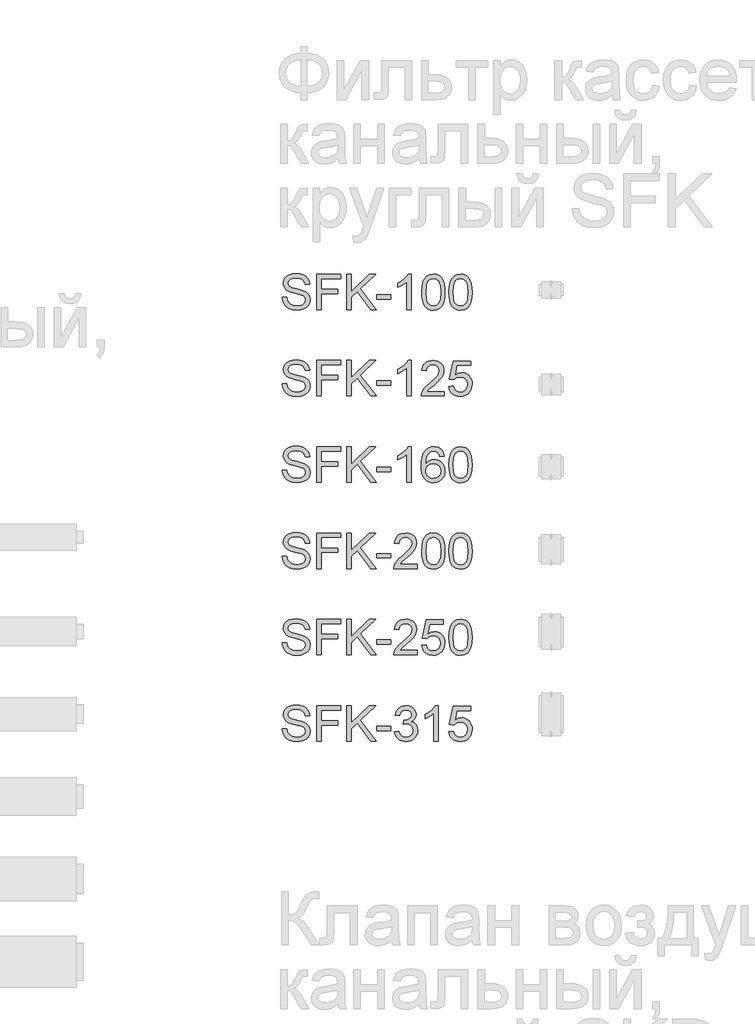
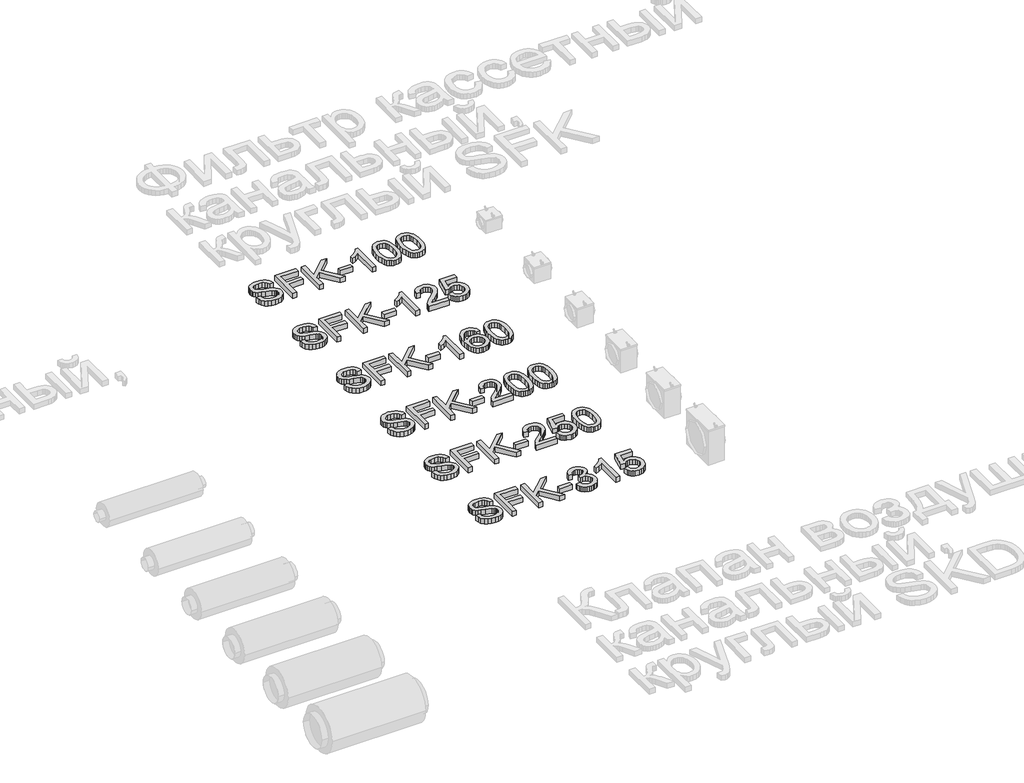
# One storey, part 13 of 31: 1 proxy.
"""IFC4 building model written with IfcOpenShell, lengths in millimetres."""

from ifc_helpers import new_model, si_unit, origin, origin_with_axes, place, context, project, spatial, polyline, outline, extrude, element, save

model = new_model("IFC4")

# Units and contexts
model_context = context("Model", 3, world=origin())
ifc_project = project(units=[si_unit("LENGTHUNIT", "METRE", prefix="MILLI")], contexts=[model_context])

# Site, building, storey
site = spatial("IfcSite", under=ifc_project)
building = spatial("IfcBuilding", under=site)
storey = spatial("IfcBuildingStorey", under=building, Name="Этаж 01", Elevation=0.0)

# Proxy
placement = place(None, origin())
element("IfcBuildingElementProxy", 1, Name="300 мм Arial", ObjectType="300 мм Arial", at=placement, inside=storey, context=model_context, shape_type="SweptSolid", body=[
    extrude(outline(polyline([(10425.0600131, -9961.2636612), (10462.7311294, -9961.2636612), (10467.0537428, -9982.1685556), (10474.8712352, -9998.9715657), (10487.0665234, -10012.307288), (10504.522524, -10022.810319), (10525.8596798, -10029.625333), (10549.698433, -10031.8970043), (10570.6861009, -10030.177156), (10589.0618065, -10025.017611), (10603.9518303, -10016.8506307), (10614.4824524, -10006.1084764), (10620.7456434, -9993.7752325), (10622.8333737, -9980.8349833), (10621.2698752, -9968.225828), (10616.5793798, -9957.3273239), (10607.0512361, -9948.0291064), (10590.9747929, -9940.2208111), (10536.1235874, -9925.8366251), (10500.1171371, -9916.3176784), (10477.0785272, -9907.2585843), (10458.3257425, -9894.5850496), (10445.0360054, -9879.2259763), (10437.1173455, -9861.5124582), (10434.4777922, -9841.7755892), (10437.7427449, -9819.7118665), (10447.537603, -9799.1380659), (10463.6048491, -9781.7004594), (10485.6869659, -9769.0453187), (10512.1928636, -9761.347388), (10541.5314528, -9758.7814111), (10573.3164571, -9761.4669496), (10601.128336, -9769.5235653), (10623.9738079, -9782.7857112), (10640.8595915, -9801.0878405), (10651.5465634, -9823.2895189), (10655.7956005, -9848.2503123), (10618.1244841, -9848.2503123), (10611.2083026, -9825.7727224), (10596.7873284, -9809.5491264), (10574.2545562, -9799.7266771), (10543.0029807, -9796.4525274), (10511.0156413, -9799.6898889), (10489.0714802, -9809.4019736), (10476.3795514, -9823.6941891), (10472.1489085, -9840.6719432), (10475.1471467, -9855.1480997), (10484.1418615, -9866.7915648), (10505.4054408, -9877.2026253), (10545.6517311, -9887.834415), (10587.1856084, -9897.9327757), (10612.3119486, -9906.7435495), (10633.7870601, -9920.4103656), (10648.7690543, -9937.2777551), (10657.5706311, -9957.161777), (10660.50449, -9979.8784902), (10657.1291727, -10003.1010411), (10647.0032208, -10024.9440346), (10630.5405015, -10043.7428045), (10608.1548821, -10057.8326849), (10581.2351171, -10066.6342617), (10551.169961, -10069.5681206), (10514.2621999, -10066.4043354), (10483.8843441, -10056.9129799), (10459.6869059, -10041.057266), (10441.3203973, -10018.8004052), (10429.5297793, -9991.6875022), (10425.0600131, -9961.2636612)])), origin_with_axes(), (0.0, 0.0, 1.0), 50.0),
    extrude(outline(polyline([(10717.0111645, -10064.859231), (10717.0111645, -9763.4903006), (10919.4934146, -9763.4903006), (10919.4934146, -9801.1614169), (10754.6822808, -9801.1614169), (10754.6822808, -9890.6303181), (10895.9489669, -9890.6303181), (10895.9489669, -9928.3014344), (10754.6822808, -9928.3014344), (10754.6822808, -10064.859231), (10717.0111645, -10064.859231)])), origin_with_axes(), (0.0, 0.0, 1.0), 50.0),
    extrude(outline(polyline([(10971.2911995, -10064.859231), (10971.2911995, -9763.4903006), (11008.9623158, -9763.4903006), (11008.9623158, -9911.0109807), (11163.4727538, -9763.4903006), (11216.1534555, -9763.4903006), (11086.438264, -9887.3929566), (11220.862345, -10064.859231), (11174.8035193, -10064.859231), (11059.7300312, -9912.8503906), (11008.9623158, -9961.2636612), (11008.9623158, -10064.859231), (10971.2911995, -10064.859231)])), origin_with_axes(), (0.0, 0.0, 1.0), 50.0),
    extrude(outline(polyline([(11225.5712346, -9975.3903298), (11225.5712346, -9937.7192135), (11343.293473, -9937.7192135), (11343.293473, -9975.3903298), (11225.5712346, -9975.3903298)])), origin_with_axes(), (0.0, 0.0, 1.0), 50.0),
    extrude(outline(polyline([(11517.522386, -10064.859231), (11479.8512697, -10064.859231), (11479.8512697, -9830.0033653), (11444.1667161, -9855.4240112), (11404.509037, -9874.4435103), (11404.509037, -9838.8325332), (11434.0959465, -9822.7376959), (11459.7281245, -9803.5894381), (11479.9340431, -9783.2271696), (11493.2421743, -9763.4903006), (11517.522386, -9763.4903006), (11517.522386, -10064.859231)])), origin_with_axes(), (0.0, 0.0, 1.0), 50.0),
    extrude(outline(polyline([(11606.9912872, -9916.602787), (11609.7595992, -9868.3642604), (11618.0645352, -9829.8930007), (11631.8233219, -9800.6003969), (11650.9531856, -9779.8978376), (11675.5920822, -9767.5921848), (11705.8779675, -9763.4903006), (11729.0913214, -9765.9183218), (11749.8766541, -9773.2023853), (11767.2590784, -9785.0573826), (11780.2637069, -9801.1982051), (11790.0861562, -9821.4868971), (11797.9220427, -9845.7855029), (11803.0539965, -9876.6416053), (11804.7646478, -9916.602787), (11802.0239269, -9964.5654021), (11793.8017643, -10002.9446913), (11780.1257512, -10032.2648863), (11761.0234786, -10053.050219), (11736.3293996, -10065.4386452), (11705.8779675, -10069.5681206), (11685.129423, -10067.7746959), (11666.7353232, -10062.3944217), (11650.6956682, -10053.427298), (11637.010458, -10040.873325), (11623.8770708, -10018.1796044), (11614.4960799, -9989.9032745), (11608.8674854, -9956.0443354), (11606.9912872, -9916.602787)]), holes=[polyline([(11644.6624035, -9916.5292106), (11649.0769874, -9975.785803), (11654.5952174, -9996.0538016), (11662.3207393, -10010.081602), (11682.0392142, -10026.4431537), (11705.8779675, -10031.8970043), (11729.7167208, -10026.4247596), (11749.4351957, -10010.0080256), (11757.1607176, -9995.9572326), (11762.6789475, -9975.6938325), (11767.0935315, -9916.5292106), (11762.8261003, -9858.6061904), (11757.4918114, -9838.4048704), (11750.0238069, -9824.043677), (11730.3421202, -9806.8819819), (11705.4365091, -9801.1614169), (11681.8552732, -9806.2014002), (11662.9093505, -9821.3213502), (11654.9263112, -9836.956335), (11649.2241402, -9858.0359734), (11644.6624035, -9916.5292106)])]), origin_with_axes(), (0.0, 0.0, 1.0), 50.0),
    extrude(outline(polyline([(11837.7268746, -9916.602787), (11840.4951866, -9868.3642604), (11848.8001226, -9829.8930007), (11862.5589092, -9800.6003969), (11881.688773, -9779.8978376), (11906.3276696, -9767.5921848), (11936.6135549, -9763.4903006), (11959.8269088, -9765.9183218), (11980.6122415, -9773.2023853), (11997.9946658, -9785.0573826), (12010.9992943, -9801.1982051), (12020.8217436, -9821.4868971), (12028.6576301, -9845.7855029), (12033.7895839, -9876.6416053), (12035.5002352, -9916.602787), (12032.7595143, -9964.5654021), (12024.5373517, -10002.9446913), (12010.8613385, -10032.2648863), (11991.7590659, -10053.050219), (11967.064987, -10065.4386452), (11936.6135549, -10069.5681206), (11915.8650103, -10067.7746959), (11897.4709106, -10062.3944217), (11881.4312556, -10053.427298), (11867.7460454, -10040.873325), (11854.6126581, -10018.1796044), (11845.2316673, -9989.9032745), (11839.6030727, -9956.0443354), (11837.7268746, -9916.602787)]), holes=[polyline([(11875.3979909, -9916.5292106), (11879.8125748, -9975.785803), (11885.3308047, -9996.0538016), (11893.0563266, -10010.081602), (11912.7748016, -10026.4431537), (11936.6135549, -10031.8970043), (11960.4523081, -10026.4247596), (11980.1707831, -10010.0080256), (11987.896305, -9995.9572326), (11993.4145349, -9975.6938325), (11997.8291189, -9916.5292106), (11993.5616877, -9858.6061904), (11988.2273988, -9838.4048704), (11980.7593943, -9824.043677), (11961.0777075, -9806.8819819), (11936.1720965, -9801.1614169), (11912.5908606, -9806.2014002), (11893.6449378, -9821.3213502), (11885.6618985, -9836.956335), (11879.9597276, -9858.0359734), (11875.3979909, -9916.5292106)])]), origin_with_axes(), (0.0, 0.0, 1.0), 50.0),
    extrude(outline(polyline([(10425.0600131, -10693.1125683), (10462.7311294, -10693.1125683), (10467.0537428, -10714.0174627), (10474.8712352, -10730.8204728), (10487.0665234, -10744.1561951), (10504.522524, -10754.6592261), (10525.8596798, -10761.47424), (10549.698433, -10763.7459113), (10570.6861009, -10762.026063), (10589.0618065, -10756.866518), (10603.9518303, -10748.6995377), (10614.4824524, -10737.9573835), (10620.7456434, -10725.6241396), (10622.8333737, -10712.6838904), (10621.2698752, -10700.074735), (10616.5793798, -10689.1762309), (10607.0512361, -10679.8780135), (10590.9747929, -10672.0697182), (10536.1235874, -10657.6855321), (10500.1171371, -10648.1665855), (10477.0785272, -10639.1074914), (10458.3257425, -10626.4339566), (10445.0360054, -10611.0748834), (10437.1173455, -10593.3613653), (10434.4777922, -10573.6244962), (10437.7427449, -10551.5607736), (10447.537603, -10530.986973), (10463.6048491, -10513.5493664), (10485.6869659, -10500.8942258), (10512.1928636, -10493.196295), (10541.5314528, -10490.6303181), (10573.3164571, -10493.3158567), (10601.128336, -10501.3724724), (10623.9738079, -10514.6346183), (10640.8595915, -10532.9367476), (10651.5465634, -10555.138426), (10655.7956005, -10580.0992194), (10618.1244841, -10580.0992194), (10611.2083026, -10557.6216295), (10596.7873284, -10541.3980335), (10574.2545562, -10531.5755842), (10543.0029807, -10528.3014344), (10511.0156413, -10531.538796), (10489.0714802, -10541.2508807), (10476.3795514, -10555.5430962), (10472.1489085, -10572.5208503), (10475.1471467, -10586.9970068), (10484.1418615, -10598.6404719), (10505.4054408, -10609.0515324), (10545.6517311, -10619.683322), (10587.1856084, -10629.7816828), (10612.3119486, -10638.5924566), (10633.7870601, -10652.2592727), (10648.7690543, -10669.1266622), (10657.5706311, -10689.010684), (10660.50449, -10711.7273972), (10657.1291727, -10734.9499482), (10647.0032208, -10756.7929416), (10630.5405015, -10775.5917116), (10608.1548821, -10789.681592), (10581.2351171, -10798.4831687), (10551.169961, -10801.4170277), (10514.2621999, -10798.2532425), (10483.8843441, -10788.761887), (10459.6869059, -10772.906173), (10441.3203973, -10750.6493123), (10429.5297793, -10723.5364093), (10425.0600131, -10693.1125683)])), origin_with_axes(), (0.0, 0.0, 1.0), 50.0),
    extrude(outline(polyline([(10717.0111645, -10796.7081381), (10717.0111645, -10495.3392077), (10919.4934146, -10495.3392077), (10919.4934146, -10533.010324), (10754.6822808, -10533.010324), (10754.6822808, -10622.4792252), (10895.9489669, -10622.4792252), (10895.9489669, -10660.1503415), (10754.6822808, -10660.1503415), (10754.6822808, -10796.7081381), (10717.0111645, -10796.7081381)])), origin_with_axes(), (0.0, 0.0, 1.0), 50.0),
    extrude(outline(polyline([(10971.2911995, -10796.7081381), (10971.2911995, -10495.3392077), (11008.9623158, -10495.3392077), (11008.9623158, -10642.8598877), (11163.4727538, -10495.3392077), (11216.1534555, -10495.3392077), (11086.438264, -10619.2418636), (11220.862345, -10796.7081381), (11174.8035193, -10796.7081381), (11059.7300312, -10644.6992977), (11008.9623158, -10693.1125683), (11008.9623158, -10796.7081381), (10971.2911995, -10796.7081381)])), origin_with_axes(), (0.0, 0.0, 1.0), 50.0),
    extrude(outline(polyline([(11225.5712346, -10707.2392369), (11225.5712346, -10669.5681206), (11343.293473, -10669.5681206), (11343.293473, -10707.2392369), (11225.5712346, -10707.2392369)])), origin_with_axes(), (0.0, 0.0, 1.0), 50.0),
    extrude(outline(polyline([(11517.522386, -10796.7081381), (11479.8512697, -10796.7081381), (11479.8512697, -10561.8522724), (11444.1667161, -10587.2729183), (11404.509037, -10606.2924174), (11404.509037, -10570.6814403), (11434.0959465, -10554.586603), (11459.7281245, -10535.4383451), (11479.9340431, -10515.0760767), (11493.2421743, -10495.3392077), (11517.522386, -10495.3392077), (11517.522386, -10796.7081381)])), origin_with_axes(), (0.0, 0.0, 1.0), 50.0),
    extrude(outline(polyline([(11800.0557583, -10759.0370218), (11800.0557583, -10796.7081381), (11602.2823976, -10796.7081381), (11606.3290996, -10770.7356693), (11615.61812, -10750.4377802), (11629.2113597, -10730.7468964), (11648.8746523, -10710.1363076), (11676.3738315, -10687.0793036), (11717.0247919, -10650.9716857), (11741.4153682, -10624.3186352), (11753.6106564, -10602.6871739), (11757.6757524, -10581.6443237), (11753.8405826, -10562.7811744), (11742.3350732, -10547.1002044), (11724.6491463, -10536.5327941), (11702.2727239, -10533.010324), (11678.7742615, -10536.4500206), (11660.5181175, -10546.7691106), (11648.7366966, -10563.1582535), (11644.6624035, -10584.8081089), (11606.9912872, -10580.0992194), (11616.1239577, -10543.6605077), (11624.6703163, -10529.1245704), (11635.8700238, -10517.0442454), (11649.4655628, -10507.5482914), (11665.1994159, -10500.7654671), (11703.0820643, -10495.3392077), (11723.2718881, -10496.8475238), (11741.2406243, -10501.3724724), (11756.9882729, -10508.9140533), (11770.514834, -10519.4722666), (11781.3788492, -10532.2653629), (11789.13886, -10546.5115932), (11793.7948665, -10562.2109573), (11795.3468687, -10579.3634554), (11793.6730056, -10597.3804761), (11788.6514164, -10615.0847971), (11779.7394751, -10633.0926208), (11766.3945557, -10652.0201494), (11745.1217793, -10674.617301), (11712.426267, -10703.6339933), (11669.089768, -10739.8703699), (11652.0936198, -10759.0370218), (11800.0557583, -10759.0370218)])), origin_with_axes(), (0.0, 0.0, 1.0), 50.0),
    extrude(outline(polyline([(11837.7268746, -10716.657016), (11875.3979909, -10711.9481264), (11882.3141724, -10734.5636721), (11894.3807018, -10750.7596769), (11911.5423969, -10760.4993527), (11933.7440753, -10763.7459113), (11960.7466137, -10759.2301599), (11980.9801235, -10745.6829054), (11993.61687, -10724.6676464), (11997.8291189, -10697.7478814), (11993.8835845, -10672.4008119), (11982.0469813, -10653.0134308), (11962.2273388, -10640.7077781), (11934.3326865, -10636.6058938), (11916.0581484, -10638.2429687), (11901.2600951, -10643.1541933), (11880.1068804, -10660.1503415), (11842.4357641, -10655.441452), (11875.3979909, -10500.0480972), (12021.3735666, -10500.0480972), (12021.3735666, -10537.7192135), (11905.8586201, -10537.7192135), (11889.7453887, -10620.7133916), (11916.6559566, -10604.379431), (11944.8541116, -10598.9347775), (11963.1999268, -10600.6224362), (11980.0512214, -10605.6854121), (11995.4079955, -10614.1237054), (12009.2702489, -10625.937316), (12020.7458679, -10640.4042754), (12028.9427386, -10656.8026154), (12033.860861, -10675.1323358), (12035.5002352, -10695.3934366), (12029.5957291, -10733.064553), (12022.2150966, -10749.858366), (12011.8822111, -10765.2910157), (11996.2288322, -10781.0961459), (11977.9634911, -10792.3855247), (11957.0861879, -10799.1591519), (11933.5969225, -10801.4170277), (11896.5971908, -10795.6136892), (11880.9185201, -10788.3595161), (11867.120646, -10778.2036738), (11855.6404285, -10765.6519999), (11846.9147274, -10751.2103324), (11837.7268746, -10716.657016)])), origin_with_axes(), (0.0, 0.0, 1.0), 50.0),
    extrude(outline(polyline([(10425.0600131, -11424.9614753), (10462.7311294, -11424.9614753), (10467.0537428, -11445.8663697), (10474.8712352, -11462.6693799), (10487.0665234, -11476.0051022), (10504.522524, -11486.5081331), (10525.8596798, -11493.3231471), (10549.698433, -11495.5948184), (10570.6861009, -11493.8749701), (10589.0618065, -11488.7154251), (10603.9518303, -11480.5484448), (10614.4824524, -11469.8062906), (10620.7456434, -11457.4730467), (10622.8333737, -11444.5327975), (10621.2698752, -11431.9236421), (10616.5793798, -11421.025138), (10607.0512361, -11411.7269206), (10590.9747929, -11403.9186252), (10536.1235874, -11389.5344392), (10500.1171371, -11380.0154926), (10477.0785272, -11370.9563985), (10458.3257425, -11358.2828637), (10445.0360054, -11342.9237904), (10437.1173455, -11325.2102724), (10434.4777922, -11305.4734033), (10437.7427449, -11283.4096807), (10447.537603, -11262.8358801), (10463.6048491, -11245.3982735), (10485.6869659, -11232.7431329), (10512.1928636, -11225.0452021), (10541.5314528, -11222.4792252), (10573.3164571, -11225.1647638), (10601.128336, -11233.2213795), (10623.9738079, -11246.4835254), (10640.8595915, -11264.7856546), (10651.5465634, -11286.9873331), (10655.7956005, -11311.9481264), (10618.1244841, -11311.9481264), (10611.2083026, -11289.4705365), (10596.7873284, -11273.2469405), (10574.2545562, -11263.4244913), (10543.0029807, -11260.1503415), (10511.0156413, -11263.3877031), (10489.0714802, -11273.0997877), (10476.3795514, -11287.3920033), (10472.1489085, -11304.3697573), (10475.1471467, -11318.8459138), (10484.1418615, -11330.489379), (10505.4054408, -11340.9004394), (10545.6517311, -11351.5322291), (10587.1856084, -11361.6305899), (10612.3119486, -11370.4413637), (10633.7870601, -11384.1081798), (10648.7690543, -11400.9755693), (10657.5706311, -11420.8595911), (10660.50449, -11443.5763043), (10657.1291727, -11466.7988552), (10647.0032208, -11488.6418487), (10630.5405015, -11507.4406187), (10608.1548821, -11521.5304991), (10581.2351171, -11530.3320758), (10551.169961, -11533.2659347), (10514.2621999, -11530.1021496), (10483.8843441, -11520.6107941), (10459.6869059, -11504.7550801), (10441.3203973, -11482.4982194), (10429.5297793, -11455.3853163), (10425.0600131, -11424.9614753)])), origin_with_axes(), (0.0, 0.0, 1.0), 50.0),
    extrude(outline(polyline([(10717.0111645, -11528.5570452), (10717.0111645, -11227.1881147), (10919.4934146, -11227.1881147), (10919.4934146, -11264.859231), (10754.6822808, -11264.859231), (10754.6822808, -11354.3281323), (10895.9489669, -11354.3281323), (10895.9489669, -11391.9992486), (10754.6822808, -11391.9992486), (10754.6822808, -11528.5570452), (10717.0111645, -11528.5570452)])), origin_with_axes(), (0.0, 0.0, 1.0), 50.0),
    extrude(outline(polyline([(10971.2911995, -11528.5570452), (10971.2911995, -11227.1881147), (11008.9623158, -11227.1881147), (11008.9623158, -11374.7087948), (11163.4727538, -11227.1881147), (11216.1534555, -11227.1881147), (11086.438264, -11351.0907707), (11220.862345, -11528.5570452), (11174.8035193, -11528.5570452), (11059.7300312, -11376.5482048), (11008.9623158, -11424.9614753), (11008.9623158, -11528.5570452), (10971.2911995, -11528.5570452)])), origin_with_axes(), (0.0, 0.0, 1.0), 50.0),
    extrude(outline(polyline([(11225.5712346, -11439.088144), (11225.5712346, -11401.4170277), (11343.293473, -11401.4170277), (11343.293473, -11439.088144), (11225.5712346, -11439.088144)])), origin_with_axes(), (0.0, 0.0, 1.0), 50.0),
    extrude(outline(polyline([(11517.522386, -11528.5570452), (11479.8512697, -11528.5570452), (11479.8512697, -11293.7011795), (11444.1667161, -11319.1218253), (11404.509037, -11338.1413245), (11404.509037, -11302.5303474), (11434.0959465, -11286.4355101), (11459.7281245, -11267.2872522), (11479.9340431, -11246.9249838), (11493.2421743, -11227.1881147), (11517.522386, -11227.1881147), (11517.522386, -11528.5570452)])), origin_with_axes(), (0.0, 0.0, 1.0), 50.0),
    extrude(outline(polyline([(11800.0557583, -11307.2392369), (11762.3846419, -11311.9481264), (11756.314589, -11293.2781152), (11748.1108205, -11280.531004), (11731.0227019, -11268.7771743), (11710.3661278, -11264.859231), (11692.8549449, -11267.1400994), (11676.3738315, -11273.9827045), (11662.2195717, -11288.3944817), (11650.65888, -11308.2325183), (11642.8505847, -11336.2927175), (11639.953514, -11375.3709824), (11655.0642669, -11357.7402378), (11673.1732581, -11345.3150234), (11693.2688121, -11337.9481864), (11714.3392534, -11335.4925741), (11732.4390475, -11337.1710357), (11749.1408901, -11342.2064205), (11764.4447811, -11350.5987285), (11778.3507205, -11362.3479598), (11789.9068137, -11376.7551384), (11798.161166, -11393.1212887), (11803.1137773, -11411.4464105), (11804.7646478, -11431.7305041), (11801.6560449, -11458.7054514), (11792.3302364, -11483.71223), (11777.5597742, -11504.920627), (11758.1172108, -11520.5004295), (11734.8854628, -11530.0745584), (11708.747447, -11533.2659347), (11686.2905505, -11531.1506133), (11666.0087563, -11524.8046488), (11647.9020643, -11514.2280415), (11631.9704747, -11499.4207912), (11618.981941, -11479.7574985), (11609.7044169, -11454.6127642), (11604.1379025, -11423.9865881), (11602.2823976, -11387.8789702), (11604.3425368, -11347.3981552), (11610.5229543, -11312.8494373), (11620.8236502, -11284.2328166), (11635.2446244, -11261.5482931), (11650.8750107, -11246.5157151), (11668.9977975, -11235.7781593), (11689.6129848, -11229.3356259), (11712.7205726, -11227.1881147), (11745.7747699, -11232.5040096), (11772.2438794, -11248.4516941), (11790.785132, -11273.7803694), (11800.0557583, -11307.2392369)]), holes=[polyline([(11639.953514, -11431.1418929), (11642.1332148, -11447.8345384), (11648.6723172, -11463.7730258), (11658.8258603, -11477.4766302), (11671.8488829, -11487.4646263), (11687.5666412, -11493.5622704), (11705.8043911, -11495.5948184), (11730.6640169, -11491.3825696), (11750.2077479, -11478.745823), (11762.8720856, -11458.8801953), (11767.0935315, -11432.9813028), (11762.9272679, -11408.121677), (11750.4284771, -11389.1665572), (11730.5536523, -11377.1644071), (11704.2592867, -11373.1636904), (11679.4364491, -11377.1644071), (11658.6787075, -11389.1665572), (11644.6348123, -11407.6618245), (11639.953514, -11431.1418929)])]), origin_with_axes(), (0.0, 0.0, 1.0), 50.0),
    extrude(outline(polyline([(11837.7268746, -11380.3006011), (11840.4951866, -11332.0620745), (11848.8001226, -11293.5908149), (11862.5589092, -11264.298211), (11881.688773, -11243.5956517), (11906.3276696, -11231.289999), (11936.6135549, -11227.1881147), (11959.8269088, -11229.6161359), (11980.6122415, -11236.9001994), (11997.9946658, -11248.7551967), (12010.9992943, -11264.8960192), (12020.8217436, -11285.1847113), (12028.6576301, -11309.4833171), (12033.7895839, -11340.3394194), (12035.5002352, -11380.3006011), (12032.7595143, -11428.2632163), (12024.5373517, -11466.6425054), (12010.8613385, -11495.9627004), (11991.7590659, -11516.7480331), (11967.064987, -11529.1364593), (11936.6135549, -11533.2659347), (11915.8650103, -11531.47251), (11897.4709106, -11526.0922358), (11881.4312556, -11517.1251122), (11867.7460454, -11504.5711391), (11854.6126581, -11481.8774185), (11845.2316673, -11453.6010887), (11839.6030727, -11419.7421495), (11837.7268746, -11380.3006011)]), holes=[polyline([(11875.3979909, -11380.2270247), (11879.8125748, -11439.4836171), (11885.3308047, -11459.7516158), (11893.0563266, -11473.7794161), (11912.7748016, -11490.1409678), (11936.6135549, -11495.5948184), (11960.4523081, -11490.1225737), (11980.1707831, -11473.7058397), (11987.896305, -11459.6550468), (11993.4145349, -11439.3916466), (11997.8291189, -11380.2270247), (11993.5616877, -11322.3040046), (11988.2273988, -11302.1026845), (11980.7593943, -11287.7414911), (11961.0777075, -11270.5797961), (11936.1720965, -11264.859231), (11912.5908606, -11269.8992144), (11893.6449378, -11285.0191644), (11885.6618985, -11300.6541492), (11879.9597276, -11321.7337875), (11875.3979909, -11380.2270247)])]), origin_with_axes(), (0.0, 0.0, 1.0), 50.0),
    extrude(outline(polyline([(10425.0600131, -12156.8103824), (10462.7311294, -12156.8103824), (10467.0537428, -12177.7152768), (10474.8712352, -12194.5182869), (10487.0665234, -12207.8540092), (10504.522524, -12218.3570402), (10525.8596798, -12225.1720542), (10549.698433, -12227.4437255), (10570.6861009, -12225.7238772), (10589.0618065, -12220.5643322), (10603.9518303, -12212.3973519), (10614.4824524, -12201.6551976), (10620.7456434, -12189.3219537), (10622.8333737, -12176.3817046), (10621.2698752, -12163.7725492), (10616.5793798, -12152.8740451), (10607.0512361, -12143.5758276), (10590.9747929, -12135.7675323), (10536.1235874, -12121.3833463), (10500.1171371, -12111.8643997), (10477.0785272, -12102.8053055), (10458.3257425, -12090.1317708), (10445.0360054, -12074.7726975), (10437.1173455, -12057.0591794), (10434.4777922, -12037.3223104), (10437.7427449, -12015.2585877), (10447.537603, -11994.6847871), (10463.6048491, -11977.2471806), (10485.6869659, -11964.5920399), (10512.1928636, -11956.8941092), (10541.5314528, -11954.3281323), (10573.3164571, -11957.0136708), (10601.128336, -11965.0702865), (10623.9738079, -11978.3324325), (10640.8595915, -11996.6345617), (10651.5465634, -12018.8362401), (10655.7956005, -12043.7970335), (10618.1244841, -12043.7970335), (10611.2083026, -12021.3194436), (10596.7873284, -12005.0958476), (10574.2545562, -11995.2733983), (10543.0029807, -11991.9992486), (10511.0156413, -11995.2366101), (10489.0714802, -12004.9486948), (10476.3795514, -12019.2409103), (10472.1489085, -12036.2186644), (10475.1471467, -12050.6948209), (10484.1418615, -12062.3382861), (10505.4054408, -12072.7493465), (10545.6517311, -12083.3811362), (10587.1856084, -12093.4794969), (10612.3119486, -12102.2902707), (10633.7870601, -12115.9570869), (10648.7690543, -12132.8244763), (10657.5706311, -12152.7084982), (10660.50449, -12175.4252114), (10657.1291727, -12198.6477623), (10647.0032208, -12220.4907558), (10630.5405015, -12239.2895257), (10608.1548821, -12253.3794062), (10581.2351171, -12262.1809829), (10551.169961, -12265.1148418), (10514.2621999, -12261.9510566), (10483.8843441, -12252.4597012), (10459.6869059, -12236.6039872), (10441.3203973, -12214.3471265), (10429.5297793, -12187.2342234), (10425.0600131, -12156.8103824)])), origin_with_axes(), (0.0, 0.0, 1.0), 50.0),
    extrude(outline(polyline([(10717.0111645, -12260.4059523), (10717.0111645, -11959.0370218), (10919.4934146, -11959.0370218), (10919.4934146, -11996.7081381), (10754.6822808, -11996.7081381), (10754.6822808, -12086.1770393), (10895.9489669, -12086.1770393), (10895.9489669, -12123.8481557), (10754.6822808, -12123.8481557), (10754.6822808, -12260.4059523), (10717.0111645, -12260.4059523)])), origin_with_axes(), (0.0, 0.0, 1.0), 50.0),
    extrude(outline(polyline([(10971.2911995, -12260.4059523), (10971.2911995, -11959.0370218), (11008.9623158, -11959.0370218), (11008.9623158, -12106.5577019), (11163.4727538, -11959.0370218), (11216.1534555, -11959.0370218), (11086.438264, -12082.9396778), (11220.862345, -12260.4059523), (11174.8035193, -12260.4059523), (11059.7300312, -12108.3971119), (11008.9623158, -12156.8103824), (11008.9623158, -12260.4059523), (10971.2911995, -12260.4059523)])), origin_with_axes(), (0.0, 0.0, 1.0), 50.0),
    extrude(outline(polyline([(11225.5712346, -12170.937051), (11225.5712346, -12133.2659347), (11343.293473, -12133.2659347), (11343.293473, -12170.937051), (11225.5712346, -12170.937051)])), origin_with_axes(), (0.0, 0.0, 1.0), 50.0),
    extrude(outline(polyline([(11569.3201709, -12222.734836), (11569.3201709, -12260.4059523), (11371.5468103, -12260.4059523), (11375.5935122, -12234.4334834), (11384.8825326, -12214.1355943), (11398.4757723, -12194.4447105), (11418.139065, -12173.8341217), (11445.6382441, -12150.7771177), (11486.2892046, -12114.6694999), (11510.6797808, -12088.0164493), (11522.875069, -12066.384988), (11526.940165, -12045.3421379), (11523.1049952, -12026.4789886), (11511.5994858, -12010.7980185), (11493.9135589, -12000.2306082), (11471.5371366, -11996.7081381), (11448.0386741, -12000.1478348), (11429.7825301, -12010.4669247), (11418.0011092, -12026.8560676), (11413.9268161, -12048.505923), (11376.2556998, -12043.7970335), (11385.3883703, -12007.3583219), (11393.9347289, -11992.8223845), (11405.1344364, -11980.7420595), (11418.7299754, -11971.2461055), (11434.4638285, -11964.4632812), (11472.3464769, -11959.0370218), (11492.5363007, -11960.545338), (11510.5050369, -11965.0702865), (11526.2526856, -11972.6118674), (11539.7792467, -11983.1700807), (11550.6432618, -11995.9631771), (11558.4032727, -12010.2094073), (11563.0592792, -12025.9087715), (11564.6112813, -12043.0612695), (11562.9374183, -12061.0782902), (11557.915829, -12078.7826112), (11549.0038877, -12096.7904349), (11535.6589683, -12115.7179636), (11514.3861919, -12138.3151151), (11481.6906796, -12167.3318075), (11438.3541806, -12203.568184), (11421.3580324, -12222.734836), (11569.3201709, -12222.734836)])), origin_with_axes(), (0.0, 0.0, 1.0), 50.0),
    extrude(outline(polyline([(11606.9912872, -12112.1495082), (11609.7595992, -12063.9109816), (11618.0645352, -12025.4397219), (11631.8233219, -11996.1471181), (11650.9531856, -11975.4445588), (11675.5920822, -11963.1389061), (11705.8779675, -11959.0370218), (11729.0913214, -11961.465043), (11749.8766541, -11968.7491065), (11767.2590784, -11980.6041038), (11780.2637069, -11996.7449263), (11790.0861562, -12017.0336184), (11797.9220427, -12041.3322241), (11803.0539965, -12072.1883265), (11804.7646478, -12112.1495082), (11802.0239269, -12160.1121233), (11793.8017643, -12198.4914125), (11780.1257512, -12227.8116075), (11761.0234786, -12248.5969402), (11736.3293996, -12260.9853664), (11705.8779675, -12265.1148418), (11685.129423, -12263.3214171), (11666.7353232, -12257.9411429), (11650.6956682, -12248.9740193), (11637.010458, -12236.4200462), (11623.8770708, -12213.7263256), (11614.4960799, -12185.4499957), (11608.8674854, -12151.5910566), (11606.9912872, -12112.1495082)]), holes=[polyline([(11644.6624035, -12112.0759318), (11649.0769874, -12171.3325242), (11654.5952174, -12191.6005228), (11662.3207393, -12205.6283232), (11682.0392142, -12221.9898749), (11705.8779675, -12227.4437255), (11729.7167208, -12221.9714808), (11749.4351957, -12205.5547468), (11757.1607176, -12191.5039538), (11762.6789475, -12171.2405537), (11767.0935315, -12112.0759318), (11762.8261003, -12054.1529117), (11757.4918114, -12033.9515916), (11750.0238069, -12019.5903982), (11730.3421202, -12002.4287031), (11705.4365091, -11996.7081381), (11681.8552732, -12001.7481215), (11662.9093505, -12016.8680715), (11654.9263112, -12032.5030562), (11649.2241402, -12053.5826946), (11644.6624035, -12112.0759318)])]), origin_with_axes(), (0.0, 0.0, 1.0), 50.0),
    extrude(outline(polyline([(11837.7268746, -12112.1495082), (11840.4951866, -12063.9109816), (11848.8001226, -12025.4397219), (11862.5589092, -11996.1471181), (11881.688773, -11975.4445588), (11906.3276696, -11963.1389061), (11936.6135549, -11959.0370218), (11959.8269088, -11961.465043), (11980.6122415, -11968.7491065), (11997.9946658, -11980.6041038), (12010.9992943, -11996.7449263), (12020.8217436, -12017.0336184), (12028.6576301, -12041.3322241), (12033.7895839, -12072.1883265), (12035.5002352, -12112.1495082), (12032.7595143, -12160.1121233), (12024.5373517, -12198.4914125), (12010.8613385, -12227.8116075), (11991.7590659, -12248.5969402), (11967.064987, -12260.9853664), (11936.6135549, -12265.1148418), (11915.8650103, -12263.3214171), (11897.4709106, -12257.9411429), (11881.4312556, -12248.9740193), (11867.7460454, -12236.4200462), (11854.6126581, -12213.7263256), (11845.2316673, -12185.4499957), (11839.6030727, -12151.5910566), (11837.7268746, -12112.1495082)]), holes=[polyline([(11875.3979909, -12112.0759318), (11879.8125748, -12171.3325242), (11885.3308047, -12191.6005228), (11893.0563266, -12205.6283232), (11912.7748016, -12221.9898749), (11936.6135549, -12227.4437255), (11960.4523081, -12221.9714808), (11980.1707831, -12205.5547468), (11987.896305, -12191.5039538), (11993.4145349, -12171.2405537), (11997.8291189, -12112.0759318), (11993.5616877, -12054.1529117), (11988.2273988, -12033.9515916), (11980.7593943, -12019.5903982), (11961.0777075, -12002.4287031), (11936.1720965, -11996.7081381), (11912.5908606, -12001.7481215), (11893.6449378, -12016.8680715), (11885.6618985, -12032.5030562), (11879.9597276, -12053.5826946), (11875.3979909, -12112.0759318)])]), origin_with_axes(), (0.0, 0.0, 1.0), 50.0),
    extrude(outline(polyline([(10425.0600131, -12888.6592895), (10462.7311294, -12888.6592895), (10467.0537428, -12909.5641839), (10474.8712352, -12926.367194), (10487.0665234, -12939.7029163), (10504.522524, -12950.2059473), (10525.8596798, -12957.0209612), (10549.698433, -12959.2926326), (10570.6861009, -12957.5727842), (10589.0618065, -12952.4132393), (10603.9518303, -12944.246259), (10614.4824524, -12933.5041047), (10620.7456434, -12921.1708608), (10622.8333737, -12908.2306116), (10621.2698752, -12895.6214562), (10616.5793798, -12884.7229521), (10607.0512361, -12875.4247347), (10590.9747929, -12867.6164394), (10536.1235874, -12853.2322534), (10500.1171371, -12843.7133067), (10477.0785272, -12834.6542126), (10458.3257425, -12821.9806779), (10445.0360054, -12806.6216046), (10437.1173455, -12788.9080865), (10434.4777922, -12769.1712175), (10437.7427449, -12747.1074948), (10447.537603, -12726.5336942), (10463.6048491, -12709.0960876), (10485.6869659, -12696.440947), (10512.1928636, -12688.7430163), (10541.5314528, -12686.1770393), (10573.3164571, -12688.8625779), (10601.128336, -12696.9191936), (10623.9738079, -12710.1813395), (10640.8595915, -12728.4834688), (10651.5465634, -12750.6851472), (10655.7956005, -12775.6459406), (10618.1244841, -12775.6459406), (10611.2083026, -12753.1683507), (10596.7873284, -12736.9447547), (10574.2545562, -12727.1223054), (10543.0029807, -12723.8481557), (10511.0156413, -12727.0855172), (10489.0714802, -12736.7976019), (10476.3795514, -12751.0898174), (10472.1489085, -12768.0675715), (10475.1471467, -12782.543728), (10484.1418615, -12794.1871931), (10505.4054408, -12804.5982536), (10545.6517311, -12815.2300433), (10587.1856084, -12825.328404), (10612.3119486, -12834.1391778), (10633.7870601, -12847.8059939), (10648.7690543, -12864.6733834), (10657.5706311, -12884.5574052), (10660.50449, -12907.2741184), (10657.1291727, -12930.4966694), (10647.0032208, -12952.3396629), (10630.5405015, -12971.1384328), (10608.1548821, -12985.2283132), (10581.2351171, -12994.02989), (10551.169961, -12996.9637489), (10514.2621999, -12993.7999637), (10483.8843441, -12984.3086082), (10459.6869059, -12968.4528942), (10441.3203973, -12946.1960335), (10429.5297793, -12919.0831305), (10425.0600131, -12888.6592895)])), origin_with_axes(), (0.0, 0.0, 1.0), 50.0),
    extrude(outline(polyline([(10717.0111645, -12992.2548593), (10717.0111645, -12690.8859289), (10919.4934146, -12690.8859289), (10919.4934146, -12728.5570452), (10754.6822808, -12728.5570452), (10754.6822808, -12818.0259464), (10895.9489669, -12818.0259464), (10895.9489669, -12855.6970627), (10754.6822808, -12855.6970627), (10754.6822808, -12992.2548593), (10717.0111645, -12992.2548593)])), origin_with_axes(), (0.0, 0.0, 1.0), 50.0),
    extrude(outline(polyline([(10971.2911995, -12992.2548593), (10971.2911995, -12690.8859289), (11008.9623158, -12690.8859289), (11008.9623158, -12838.4066089), (11163.4727538, -12690.8859289), (11216.1534555, -12690.8859289), (11086.438264, -12814.7885849), (11220.862345, -12992.2548593), (11174.8035193, -12992.2548593), (11059.7300312, -12840.2460189), (11008.9623158, -12888.6592895), (11008.9623158, -12992.2548593), (10971.2911995, -12992.2548593)])), origin_with_axes(), (0.0, 0.0, 1.0), 50.0),
    extrude(outline(polyline([(11225.5712346, -12902.7859581), (11225.5712346, -12865.1148418), (11343.293473, -12865.1148418), (11343.293473, -12902.7859581), (11225.5712346, -12902.7859581)])), origin_with_axes(), (0.0, 0.0, 1.0), 50.0),
    extrude(outline(polyline([(11569.3201709, -12954.583743), (11569.3201709, -12992.2548593), (11371.5468103, -12992.2548593), (11375.5935122, -12966.2823905), (11384.8825326, -12945.9845014), (11398.4757723, -12926.2936176), (11418.139065, -12905.6830288), (11445.6382441, -12882.6260248), (11486.2892046, -12846.5184069), (11510.6797808, -12819.8653564), (11522.875069, -12798.2338951), (11526.940165, -12777.191045), (11523.1049952, -12758.3278956), (11511.5994858, -12742.6469256), (11493.9135589, -12732.0795153), (11471.5371366, -12728.5570452), (11448.0386741, -12731.9967418), (11429.7825301, -12742.3158318), (11418.0011092, -12758.7049747), (11413.9268161, -12780.3548301), (11376.2556998, -12775.6459406), (11385.3883703, -12739.2072289), (11393.9347289, -12724.6712916), (11405.1344364, -12712.5909666), (11418.7299754, -12703.0950126), (11434.4638285, -12696.3121883), (11472.3464769, -12690.8859289), (11492.5363007, -12692.3942451), (11510.5050369, -12696.9191936), (11526.2526856, -12704.4607745), (11539.7792467, -12715.0189878), (11550.6432618, -12727.8120841), (11558.4032727, -12742.0583144), (11563.0592792, -12757.7576786), (11564.6112813, -12774.9101766), (11562.9374183, -12792.9271973), (11557.915829, -12810.6315183), (11549.0038877, -12828.639342), (11535.6589683, -12847.5668706), (11514.3861919, -12870.1640222), (11481.6906796, -12899.1807146), (11438.3541806, -12935.4170911), (11421.3580324, -12954.583743), (11569.3201709, -12954.583743)])), origin_with_axes(), (0.0, 0.0, 1.0), 50.0),
    extrude(outline(polyline([(11606.9912872, -12912.2037372), (11644.6624035, -12907.4948476), (11651.578585, -12930.1103933), (11663.6451144, -12946.3063981), (11680.8068095, -12956.046074), (11703.0084879, -12959.2926326), (11730.0110264, -12954.7768811), (11750.2445361, -12941.2296266), (11762.8812826, -12920.2143676), (11767.0935315, -12893.2946026), (11763.1479971, -12867.9475332), (11751.3113939, -12848.560152), (11731.4917514, -12836.2544993), (11703.5970991, -12832.152615), (11685.322561, -12833.7896899), (11670.5245078, -12838.7009145), (11649.371293, -12855.6970627), (11611.7001767, -12850.9881732), (11644.6624035, -12695.5948184), (11790.6379792, -12695.5948184), (11790.6379792, -12733.2659347), (11675.1230327, -12733.2659347), (11659.0098013, -12816.2601128), (11685.9203692, -12799.9261523), (11714.1185242, -12794.4814987), (11732.4643394, -12796.1691574), (11749.3156341, -12801.2321333), (11764.6724081, -12809.6704266), (11778.5346615, -12821.4840372), (11790.0102805, -12835.9509966), (11798.2071512, -12852.3493366), (11803.1252737, -12870.679057), (11804.7646478, -12890.9401579), (11798.8601418, -12928.6112742), (11791.4795092, -12945.4050872), (11781.1466237, -12960.8377369), (11765.4932448, -12976.6428672), (11747.2279037, -12987.9322459), (11726.3506005, -12994.7058731), (11702.8613351, -12996.9637489), (11665.8616035, -12991.1604104), (11650.1829327, -12983.9062373), (11636.3850586, -12973.750395), (11624.9048411, -12961.1987212), (11616.17914, -12946.7570536), (11606.9912872, -12912.2037372)])), origin_with_axes(), (0.0, 0.0, 1.0), 50.0),
    extrude(outline(polyline([(11837.7268746, -12843.9984153), (11840.4951866, -12795.7598887), (11848.8001226, -12757.288629), (11862.5589092, -12727.9960251), (11881.688773, -12707.2934659), (11906.3276696, -12694.9878131), (11936.6135549, -12690.8859289), (11959.8269088, -12693.3139501), (11980.6122415, -12700.5980136), (11997.9946658, -12712.4530108), (12010.9992943, -12728.5938334), (12020.8217436, -12748.8825254), (12028.6576301, -12773.1811312), (12033.7895839, -12804.0372335), (12035.5002352, -12843.9984153), (12032.7595143, -12891.9610304), (12024.5373517, -12930.3403195), (12010.8613385, -12959.6605146), (11991.7590659, -12980.4458473), (11967.064987, -12992.8342735), (11936.6135549, -12996.9637489), (11915.8650103, -12995.1703241), (11897.4709106, -12989.79005), (11881.4312556, -12980.8229263), (11867.7460454, -12968.2689532), (11854.6126581, -12945.5752327), (11845.2316673, -12917.2989028), (11839.6030727, -12883.4399637), (11837.7268746, -12843.9984153)]), holes=[polyline([(11875.3979909, -12843.9248389), (11879.8125748, -12903.1814312), (11885.3308047, -12923.4494299), (11893.0563266, -12937.4772302), (11912.7748016, -12953.838782), (11936.6135549, -12959.2926326), (11960.4523081, -12953.8203879), (11980.1707831, -12937.4036539), (11987.896305, -12923.3528609), (11993.4145349, -12903.0894608), (11997.8291189, -12843.9248389), (11993.5616877, -12786.0018187), (11988.2273988, -12765.8004987), (11980.7593943, -12751.4393053), (11961.0777075, -12734.2776102), (11936.1720965, -12728.5570452), (11912.5908606, -12733.5970285), (11893.6449378, -12748.7169785), (11885.6618985, -12764.3519633), (11879.9597276, -12785.4316016), (11875.3979909, -12843.9248389)])]), origin_with_axes(), (0.0, 0.0, 1.0), 50.0),
    extrude(outline(polyline([(10425.0600131, -13620.5081966), (10462.7311294, -13620.5081966), (10467.0537428, -13641.4130909), (10474.8712352, -13658.2161011), (10487.0665234, -13671.5518234), (10504.522524, -13682.0548544), (10525.8596798, -13688.8698683), (10549.698433, -13691.1415396), (10570.6861009, -13689.4216913), (10589.0618065, -13684.2621463), (10603.9518303, -13676.095166), (10614.4824524, -13665.3530118), (10620.7456434, -13653.0197679), (10622.8333737, -13640.0795187), (10621.2698752, -13627.4703633), (10616.5793798, -13616.5718592), (10607.0512361, -13607.2736418), (10590.9747929, -13599.4653464), (10536.1235874, -13585.0811604), (10500.1171371, -13575.5622138), (10477.0785272, -13566.5031197), (10458.3257425, -13553.8295849), (10445.0360054, -13538.4705116), (10437.1173455, -13520.7569936), (10434.4777922, -13501.0201245), (10437.7427449, -13478.9564019), (10447.537603, -13458.3826013), (10463.6048491, -13440.9449947), (10485.6869659, -13428.2898541), (10512.1928636, -13420.5919233), (10541.5314528, -13418.0259464), (10573.3164571, -13420.711485), (10601.128336, -13428.7681007), (10623.9738079, -13442.0302466), (10640.8595915, -13460.3323759), (10651.5465634, -13482.5340543), (10655.7956005, -13507.4948476), (10618.1244841, -13507.4948476), (10611.2083026, -13485.0172577), (10596.7873284, -13468.7936617), (10574.2545562, -13458.9712125), (10543.0029807, -13455.6970627), (10511.0156413, -13458.9344243), (10489.0714802, -13468.646509), (10476.3795514, -13482.9387245), (10472.1489085, -13499.9164785), (10475.1471467, -13514.3926351), (10484.1418615, -13526.0361002), (10505.4054408, -13536.4471607), (10545.6517311, -13547.0789503), (10587.1856084, -13557.1773111), (10612.3119486, -13565.9880849), (10633.7870601, -13579.654901), (10648.7690543, -13596.5222905), (10657.5706311, -13616.4063123), (10660.50449, -13639.1230255), (10657.1291727, -13662.3455765), (10647.0032208, -13684.1885699), (10630.5405015, -13702.9873399), (10608.1548821, -13717.0772203), (10581.2351171, -13725.878797), (10551.169961, -13728.8126559), (10514.2621999, -13725.6488708), (10483.8843441, -13716.1575153), (10459.6869059, -13700.3018013), (10441.3203973, -13678.0449406), (10429.5297793, -13650.9320376), (10425.0600131, -13620.5081966)])), origin_with_axes(), (0.0, 0.0, 1.0), 50.0),
    extrude(outline(polyline([(10717.0111645, -13724.1037664), (10717.0111645, -13422.734836), (10919.4934146, -13422.734836), (10919.4934146, -13460.4059523), (10754.6822808, -13460.4059523), (10754.6822808, -13549.8748535), (10895.9489669, -13549.8748535), (10895.9489669, -13587.5459698), (10754.6822808, -13587.5459698), (10754.6822808, -13724.1037664), (10717.0111645, -13724.1037664)])), origin_with_axes(), (0.0, 0.0, 1.0), 50.0),
    extrude(outline(polyline([(10971.2911995, -13724.1037664), (10971.2911995, -13422.734836), (11008.9623158, -13422.734836), (11008.9623158, -13570.255516), (11163.4727538, -13422.734836), (11216.1534555, -13422.734836), (11086.438264, -13546.6374919), (11220.862345, -13724.1037664), (11174.8035193, -13724.1037664), (11059.7300312, -13572.094926), (11008.9623158, -13620.5081966), (11008.9623158, -13724.1037664), (10971.2911995, -13724.1037664)])), origin_with_axes(), (0.0, 0.0, 1.0), 50.0),
    extrude(outline(polyline([(11225.5712346, -13634.6348652), (11225.5712346, -13596.9637489), (11343.293473, -13596.9637489), (11343.293473, -13634.6348652), (11225.5712346, -13634.6348652)])), origin_with_axes(), (0.0, 0.0, 1.0), 50.0),
    extrude(outline(polyline([(11376.2556998, -13644.0526443), (11413.9268161, -13639.3437547), (11422.3605109, -13663.0169611), (11434.7121488, -13679.0014338), (11451.5887354, -13688.1065132), (11473.5972757, -13691.1415396), (11499.4225918, -13686.966079), (11519.3617959, -13674.4396971), (11532.1089071, -13655.7512917), (11536.3579441, -13633.0897608), (11532.1456953, -13611.5778611), (11519.5089487, -13594.1310575), (11500.379085, -13582.5703658), (11476.6874845, -13578.7168019), (11450.2735572, -13582.8370803), (11454.467412, -13545.1659639), (11460.5006767, -13545.6074223), (11483.0702371, -13542.9034897), (11503.2485645, -13534.7916917), (11517.4855978, -13521.0696933), (11522.2312755, -13501.5351593), (11518.7915788, -13485.2655781), (11508.4724889, -13472.0678115), (11492.7271395, -13463.3214171), (11473.0086645, -13460.4059523), (11453.2534014, -13463.3490082), (11437.1033818, -13472.1781761), (11425.3127639, -13486.8934559), (11418.6357057, -13507.4948476), (11380.9645893, -13502.7859581), (11392.0562315, -13468.9592086), (11411.7931005, -13443.7041097), (11438.795639, -13427.9771544), (11471.6842894, -13422.734836), (11495.3666928, -13425.319207), (11517.1177158, -13433.07232), (11535.4566332, -13445.3043964), (11548.9027201, -13461.3256572), (11557.1524739, -13479.7841364), (11559.9023918, -13499.3278673), (11557.2904296, -13517.5380261), (11549.4545431, -13534.0559277), (11536.5050969, -13548.127414), (11518.5524555, -13558.998327), (11542.1336914, -13568.5264706), (11559.6080862, -13584.7500666), (11570.4238169, -13606.7861981), (11574.0290604, -13633.7519484), (11572.2264386, -13652.863418), (11566.8185733, -13670.4665715), (11557.8054644, -13686.5614088), (11545.187112, -13701.1479299), (11529.8142431, -13713.2512475), (11512.5375849, -13721.8964744), (11493.3571374, -13727.0836106), (11472.2729006, -13728.8126559), (11453.2166132, -13727.3365294), (11435.852583, -13722.9081499), (11420.18081, -13715.5275174), (11406.2012942, -13705.1946319), (11394.4796541, -13692.5164986), (11385.5815084, -13678.1001229), (11379.5068569, -13661.9455048), (11376.2556998, -13644.0526443)])), origin_with_axes(), (0.0, 0.0, 1.0), 50.0),
    extrude(outline(polyline([(11748.2579733, -13724.1037664), (11710.586857, -13724.1037664), (11710.586857, -13489.2479007), (11674.9023035, -13514.6685465), (11635.2446244, -13533.6880457), (11635.2446244, -13498.0770686), (11664.8315339, -13481.9822313), (11690.4637119, -13462.8339734), (11710.6696305, -13442.471705), (11723.9777617, -13422.734836), (11748.2579733, -13422.734836), (11748.2579733, -13724.1037664)])), origin_with_axes(), (0.0, 0.0, 1.0), 50.0),
    extrude(outline(polyline([(11837.7268746, -13644.0526443), (11875.3979909, -13639.3437547), (11882.3141724, -13661.9593004), (11894.3807018, -13678.1553052), (11911.5423969, -13687.894981), (11933.7440753, -13691.1415396), (11960.7466137, -13686.6257881), (11980.9801235, -13673.0785337), (11993.61687, -13652.0632747), (11997.8291189, -13625.1435097), (11993.8835845, -13599.7964402), (11982.0469813, -13580.4090591), (11962.2273388, -13568.1034063), (11934.3326865, -13564.0015221), (11916.0581484, -13565.638597), (11901.2600951, -13570.5498216), (11880.1068804, -13587.5459698), (11842.4357641, -13582.8370803), (11875.3979909, -13427.4437255), (12021.3735666, -13427.4437255), (12021.3735666, -13465.1148418), (11905.8586201, -13465.1148418), (11889.7453887, -13548.1090199), (11916.6559566, -13531.7750593), (11944.8541116, -13526.3304058), (11963.1999268, -13528.0180644), (11980.0512214, -13533.0810404), (11995.4079955, -13541.5193337), (12009.2702489, -13553.3329442), (12020.7458679, -13567.7999037), (12028.9427386, -13584.1982436), (12033.860861, -13602.527964), (12035.5002352, -13622.7890649), (12029.5957291, -13660.4601812), (12022.2150966, -13677.2539943), (12011.8822111, -13692.686644), (11996.2288322, -13708.4917742), (11977.9634911, -13719.781153), (11957.0861879, -13726.5547802), (11933.5969225, -13728.8126559), (11896.5971908, -13723.0093175), (11880.9185201, -13715.7551444), (11867.120646, -13705.599302), (11855.6404285, -13693.0476282), (11846.9147274, -13678.6059606), (11837.7268746, -13644.0526443)])), origin_with_axes(), (0.0, 0.0, 1.0), 50.0),
])

save(model, "model.ifc")
